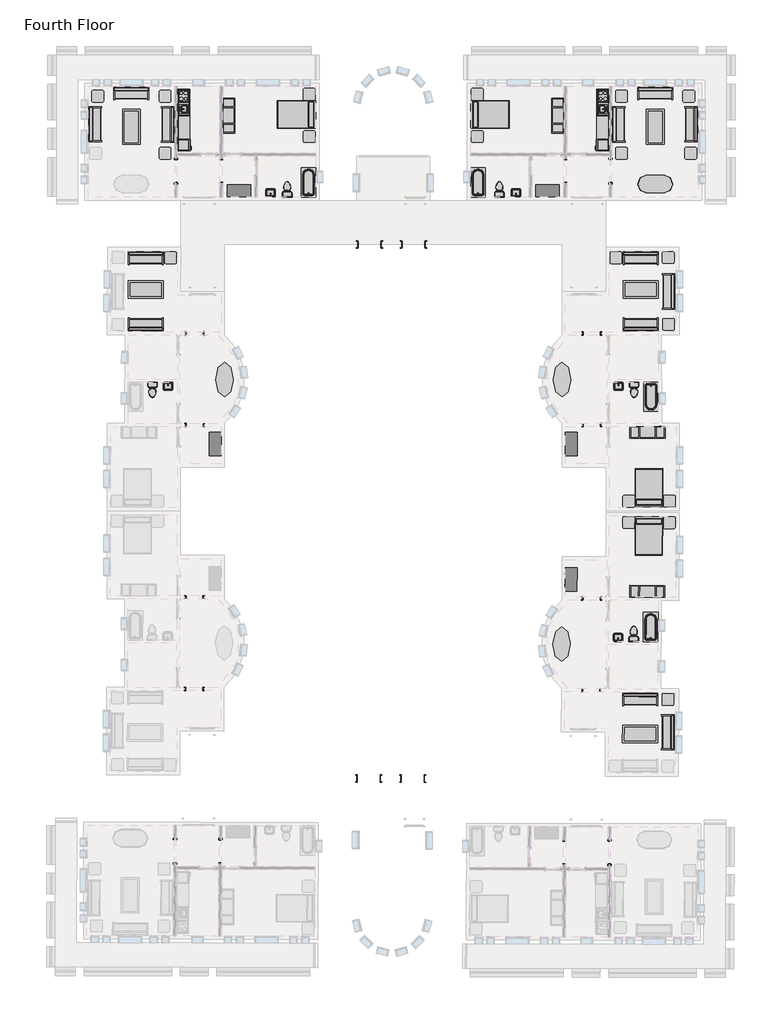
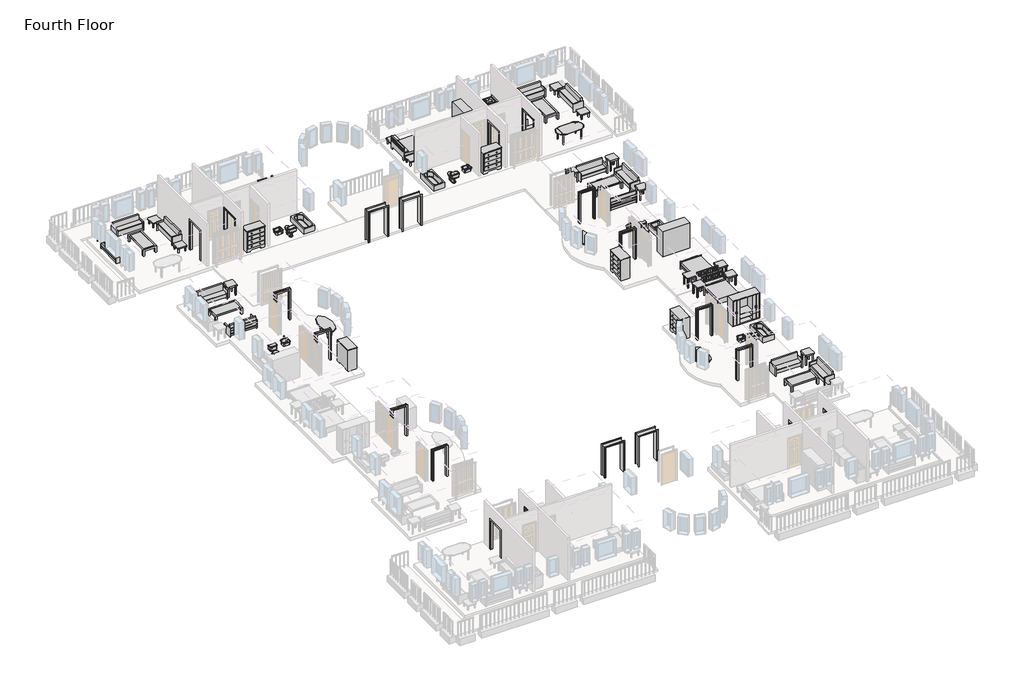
# One storey, part 8 of 8: 57 furniture elements, 28 proxies, 16 flow terminals.
"""IFC4 building model written with IfcOpenShell, lengths in millimetres."""

from ifc_helpers import new_model, si_unit, origin, place, context, project, spatial, transform, mapped, element, save
from components import m_cook_top_4_unit2_0615_x_500mm_249f3515, m_cook_top_4_unit2_0615_x_500mm_c91639ce, m_dishwasher_610_x_610_x_875mm_54ecfc4c, m_dishwasher_610_x_610_x_875mm_75336c20, m_kitchenette_medium_1372mm_e05c6bec, m_kitchenette_medium_1372mm_39f1532f, m_passage_opening_cased_0915_x_2134mm_b7ef4dee, m_passage_opening_cased_0915_x_2134mm_5e741ba8, m_passage_opening_cased_1220_x_2134mm_87a8d9c2, m_passage_opening_cased_1220_x_2134mm_f04423fa, m_passage_opening_cased_1220_x_2134mm_7296280d, m_passage_opening_cased_1220_x_2134mm_b92f2863, m_refrigerator_600_x_660mm_a466bf94, m_refrigerator_600_x_660mm_0a899b9c, m_sink_kitchen_island_450_x_450mm_f969cf2d, m_sink_kitchen_island_450_x_450mm_f6c2c534, m_sink_vanity_square_500_x_440mm_1e229b74, m_sink_vanity_square_500_x_440mm_f3cfe680, m_toilet_domestic_3d_m_toilet_domestic_3d_5cb52bd4, m_toilet_domestic_3d_m_toilet_domestic_3d_183bbd19, m_toilet_domestic_3d_m_toilet_domestic_3d_43425dfb, m_toilet_domestic_3d_m_toilet_domestic_3d_5530cc89, m_tub_rectangular_3d_m_tub_rectangular_3d_3a981ad5, m_tub_rectangular_3d_m_tub_rectangular_3d_c2020133, m_bed_shaker_1422_x_1981mm_double_096e7f55, m_bed_shaker_1422_x_1981mm_double_097b173b, m_counter_top_w_sink_hole_600mm_depth_1fb56bb9, m_counter_top_w_sink_hole_600mm_depth_7e9aa94d, m_dresser_1220_x_1525_x_0610mm_18e1f140, m_dresser_1220_x_1525_x_0610mm_4e5de046, m_entertainment_center_1830_x_1830_x_0610mm_f77a9b93, m_entertainment_center_1830_x_1830_x_0610mm_4f6058a0, m_sofa_1830mm_58d08fc1, m_sofa_1830mm_3da2e71b, m_sofa1_1830mm_f9e8a66b, m_sofa1_1830mm_493d6964, m_table_coffee_0915_x_1830_x_0457mm_134cd960, m_table_coffee_0915_x_1830_x_0457mm_595c1ebd, m_table_dining_oval_0915_x_1830mm_a7cfbe21, m_table_ellipse_1800_x_900mm_fd46d5a5, m_table_ellipse_1800_x_900mm_f7269293, m_table_end_cb6ea12e, m_table_end_aa2764bc, m_table_end_0610_x_0160mm_e0e5b28f, m_table_end_0610_x_0160mm_ccef8dc9

model = new_model("IFC4")

# Units and contexts
model_context = context("Model", 3, world=origin())
ifc_project = project(units=[si_unit("LENGTHUNIT", "METRE", prefix="MILLI")], contexts=[model_context])

# Site, building, storey
site = spatial("IfcSite", under=ifc_project)
building = spatial("IfcBuilding", under=site)
storey = spatial("IfcBuildingStorey", under=building, Name="Fourth Floor", Elevation=9144.0)

# Proxies
placement = place(None, origin())
m_cook_top_4_unit2_0615_x_500mm_shape = m_cook_top_4_unit2_0615_x_500mm_249f3515(model_context)
element("IfcBuildingElementProxy", 1, Name="M_Cook Top-4 Unit2 : 0615 x 500mm", ObjectType="M_Cook Top-4 Unit2 : 0615 x 500mm", at=placement, inside=storey, context=model_context, shape_type="MappedRepresentation", body=[
    mapped(m_cook_top_4_unit2_0615_x_500mm_shape, transform((-8054.9916203, 1914.054661, 9144.0), x_axis=(0.0, -1.0, 0.0), y_axis=(1.0, 0.0, 0.0), z_axis=(0.0, 0.0, 1.0))),
])
m_cook_top_4_unit2_0615_x_500mm_2_shape = m_cook_top_4_unit2_0615_x_500mm_c91639ce(model_context)
element("IfcBuildingElementProxy", 2, Name="M_Cook Top-4 Unit2 : 0615 x 500mm", ObjectType="M_Cook Top-4 Unit2 : 0615 x 500mm", at=placement, inside=storey, context=model_context, shape_type="MappedRepresentation", body=[
    mapped(m_cook_top_4_unit2_0615_x_500mm_2_shape, transform((-29859.1916203, 1914.054661, 9144.0), x_axis=(0.0, -1.0, 0.0), y_axis=(1.0, 0.0, 0.0), z_axis=(0.0, 0.0, 1.0))),
])
m_dishwasher_610_x_610_x_875mm_shape = m_dishwasher_610_x_610_x_875mm_54ecfc4c(model_context)
element("IfcBuildingElementProxy", 3, Name="M_Dishwasher : 610 x 610 x 875mm", ObjectType="M_Dishwasher : 610 x 610 x 875mm", at=placement, inside=storey, context=model_context, shape_type="MappedRepresentation", body=[
    mapped(m_dishwasher_610_x_610_x_875mm_shape, transform((-8321.6411851, 353.5721295, 9144.0), x_axis=(0.0, -1.0, 0.0), y_axis=(1.0, 0.0, 0.0), z_axis=(0.0, 0.0, 1.0))),
])
m_dishwasher_610_x_610_x_875mm_2_shape = m_dishwasher_610_x_610_x_875mm_75336c20(model_context)
element("IfcBuildingElementProxy", 4, Name="M_Dishwasher : 610 x 610 x 875mm", ObjectType="M_Dishwasher : 610 x 610 x 875mm", at=placement, inside=storey, context=model_context, shape_type="MappedRepresentation", body=[
    mapped(m_dishwasher_610_x_610_x_875mm_2_shape, transform((-29592.5420555, 353.5721295, 9144.0), x_axis=(0.0, -1.0, 0.0), y_axis=(1.0, 0.0, 0.0), z_axis=(0.0, 0.0, 1.0))),
])
m_kitchenette_medium_1372mm_shape = m_kitchenette_medium_1372mm_e05c6bec(model_context)
element("IfcBuildingElementProxy", 5, Name="M_Kitchenette - Medium : 1372mm", ObjectType="M_Kitchenette - Medium : 1372mm", at=placement, inside=storey, context=model_context, shape_type="MappedRepresentation", body=[
    mapped(m_kitchenette_medium_1372mm_shape, transform((-7749.9916203, 1589.7923659, 9144.0), x_axis=(0.0, -1.0, 0.0), y_axis=(1.0, 0.0, 0.0), z_axis=(0.0, 0.0, 1.0))),
])
m_kitchenette_medium_1372mm_2_shape = m_kitchenette_medium_1372mm_39f1532f(model_context)
element("IfcBuildingElementProxy", 6, Name="M_Kitchenette - Medium : 1372mm", ObjectType="M_Kitchenette - Medium : 1372mm", at=placement, inside=storey, context=model_context, shape_type="MappedRepresentation", body=[
    mapped(m_kitchenette_medium_1372mm_2_shape, transform((-30164.1916203, 1589.7923659, 9144.0), x_axis=(0.0, -1.0, 0.0), y_axis=(1.0, 0.0, 0.0), z_axis=(0.0, 0.0, 1.0))),
])
m_passage_opening_cased_0915_x_2134mm_shape = m_passage_opening_cased_0915_x_2134mm_b7ef4dee(model_context)
element("IfcBuildingElementProxy", 7, Name="M_Passage Opening-Cased : 0915 x 2134mm", ObjectType="M_Passage Opening-Cased : 0915 x 2134mm", at=placement, inside=storey, context=model_context, shape_type="MappedRepresentation", body=[
    mapped(m_passage_opening_cased_0915_x_2134mm_shape, transform((-29263.1209408, -10426.1057324, 9144.0), x_axis=(0.9999989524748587, -0.0014474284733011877, 0.0), y_axis=(0.0014474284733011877, 0.9999989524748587, 0.0), z_axis=(0.0, 0.0, 1.0))),
])
element("IfcBuildingElementProxy", 8, Name="M_Passage Opening-Cased : 0915 x 2134mm", ObjectType="M_Passage Opening-Cased : 0915 x 2134mm", at=placement, inside=storey, context=model_context, shape_type="MappedRepresentation", body=[
    mapped(m_passage_opening_cased_0915_x_2134mm_shape, transform((-29270.0280695, -15198.1007336, 9144.0), x_axis=(0.9999989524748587, -0.0014474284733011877, 0.0), y_axis=(0.0014474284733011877, 0.9999989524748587, 0.0), z_axis=(0.0, 0.0, 1.0))),
])
element("IfcBuildingElementProxy", 9, Name="M_Passage Opening-Cased : 0915 x 2134mm", ObjectType="M_Passage Opening-Cased : 0915 x 2134mm", at=placement, inside=storey, context=model_context, shape_type="MappedRepresentation", body=[
    mapped(m_passage_opening_cased_0915_x_2134mm_shape, transform((-8677.908724, -28973.7552644, 9144.0), x_axis=(-0.9999905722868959, 0.004342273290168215, 0.0), y_axis=(-0.004342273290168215, -0.9999905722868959, 0.0), z_axis=(0.0, 0.0, 1.0))),
])
element("IfcBuildingElementProxy", 10, Name="M_Passage Opening-Cased : 0915 x 2134mm", ObjectType="M_Passage Opening-Cased : 0915 x 2134mm", at=placement, inside=storey, context=model_context, shape_type="MappedRepresentation", body=[
    mapped(m_passage_opening_cased_0915_x_2134mm_shape, transform((-8657.1873959, -24201.8002534, 9144.0), x_axis=(-0.9999905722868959, 0.004342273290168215, 0.0), y_axis=(-0.004342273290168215, -0.9999905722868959, 0.0), z_axis=(0.0, 0.0, 1.0))),
])
m_passage_opening_cased_0915_x_2134mm_2_shape = m_passage_opening_cased_0915_x_2134mm_5e741ba8(model_context)
element("IfcBuildingElementProxy", 11, Name="M_Passage Opening-Cased : 0915 x 2134mm", ObjectType="M_Passage Opening-Cased : 0915 x 2134mm", at=placement, inside=storey, context=model_context, shape_type="MappedRepresentation", body=[
    mapped(m_passage_opening_cased_0915_x_2134mm_2_shape, transform((-8651.0622999, -10426.1057324, 9144.0), x_axis=(-0.9999989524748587, -0.0014474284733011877, 0.0), y_axis=(0.0014474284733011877, -0.9999989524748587, 0.0), z_axis=(0.0, 0.0, 1.0))),
])
element("IfcBuildingElementProxy", 12, Name="M_Passage Opening-Cased : 0915 x 2134mm", ObjectType="M_Passage Opening-Cased : 0915 x 2134mm", at=placement, inside=storey, context=model_context, shape_type="MappedRepresentation", body=[
    mapped(m_passage_opening_cased_0915_x_2134mm_2_shape, transform((-8644.1551712, -15198.1007336, 9144.0), x_axis=(-0.9999989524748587, -0.0014474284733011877, 0.0), y_axis=(0.0014474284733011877, -0.9999989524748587, 0.0), z_axis=(0.0, 0.0, 1.0))),
])
element("IfcBuildingElementProxy", 13, Name="M_Passage Opening-Cased : 0915 x 2134mm", ObjectType="M_Passage Opening-Cased : 0915 x 2134mm", at=placement, inside=storey, context=model_context, shape_type="MappedRepresentation", body=[
    mapped(m_passage_opening_cased_0915_x_2134mm_2_shape, transform((-29289.8809984, -28914.0863657, 9144.0), x_axis=(0.9999989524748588, -0.0014474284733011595, 0.0), y_axis=(0.0014474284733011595, 0.9999989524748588, 0.0), z_axis=(0.0, 0.0, 1.0))),
])
element("IfcBuildingElementProxy", 14, Name="M_Passage Opening-Cased : 0915 x 2134mm", ObjectType="M_Passage Opening-Cased : 0915 x 2134mm", at=placement, inside=storey, context=model_context, shape_type="MappedRepresentation", body=[
    mapped(m_passage_opening_cased_0915_x_2134mm_2_shape, transform((-29282.9738697, -24142.0913645, 9144.0), x_axis=(0.9999989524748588, -0.0014474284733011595, 0.0), y_axis=(0.0014474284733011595, 0.9999989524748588, 0.0), z_axis=(0.0, 0.0, 1.0))),
])
m_passage_opening_cased_1220_x_2134mm_shape = m_passage_opening_cased_1220_x_2134mm_87a8d9c2(model_context)
element("IfcBuildingElementProxy", 15, Name="M_Passage Opening-Cased : 1220 x 2134mm", ObjectType="M_Passage Opening-Cased : 1220 x 2134mm", at=placement, inside=storey, context=model_context, shape_type="MappedRepresentation", body=[
    mapped(m_passage_opening_cased_1220_x_2134mm_shape, transform((-7665.3416203, -1982.6925047, 9144.0), x_axis=(0.0, 1.0, 0.0), y_axis=(-1.0, 0.0, 0.0), z_axis=(0.0, 0.0, 1.0))),
])
element("IfcBuildingElementProxy", 16, Name="M_Passage Opening-Cased : 1220 x 2134mm", ObjectType="M_Passage Opening-Cased : 1220 x 2134mm", at=placement, inside=storey, context=model_context, shape_type="MappedRepresentation", body=[
    mapped(m_passage_opening_cased_1220_x_2134mm_shape, transform((-10019.0916203, -1999.0698181, 9144.0), x_axis=(0.0, -1.0, 0.0), y_axis=(1.0, 0.0, 0.0), z_axis=(0.0, 0.0, 1.0))),
])
element("IfcBuildingElementProxy", 17, Name="M_Passage Opening-Cased : 1220 x 2134mm", ObjectType="M_Passage Opening-Cased : 1220 x 2134mm", at=placement, inside=storey, context=model_context, shape_type="MappedRepresentation", body=[
    mapped(m_passage_opening_cased_1220_x_2134mm_shape, transform((-30300.0399955, -37354.6106974, 9144.0), x_axis=(-0.0028948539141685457, -0.9999958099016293, 0.0), y_axis=(0.9999958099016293, -0.0028948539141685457, 0.0), z_axis=(0.0, 0.0, 1.0))),
])
element("IfcBuildingElementProxy", 18, Name="M_Passage Opening-Cased : 1220 x 2134mm", ObjectType="M_Passage Opening-Cased : 1220 x 2134mm", at=placement, inside=storey, context=model_context, shape_type="MappedRepresentation", body=[
    mapped(m_passage_opening_cased_1220_x_2134mm_shape, transform((-27946.252448, -37345.047215, 9144.0), x_axis=(0.0028948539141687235, 0.9999958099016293, 0.0), y_axis=(-0.9999958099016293, 0.0028948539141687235, 0.0), z_axis=(0.0, 0.0, 1.0))),
])
m_passage_opening_cased_1220_x_2134mm_2_shape = m_passage_opening_cased_1220_x_2134mm_f04423fa(model_context)
element("IfcBuildingElementProxy", 19, Name="M_Passage Opening-Cased : 1220 x 2134mm", ObjectType="M_Passage Opening-Cased : 1220 x 2134mm", at=placement, inside=storey, context=model_context, shape_type="MappedRepresentation", body=[
    mapped(m_passage_opening_cased_1220_x_2134mm_2_shape, transform((-17916.280277, -5800.8811614, 9144.0), x_axis=(-1.0, 0.0, 0.0), y_axis=(0.0, -1.0, 0.0), z_axis=(0.0, 0.0, 1.0))),
])
element("IfcBuildingElementProxy", 20, Name="M_Passage Opening-Cased : 1220 x 2134mm", ObjectType="M_Passage Opening-Cased : 1220 x 2134mm", at=placement, inside=storey, context=model_context, shape_type="MappedRepresentation", body=[
    mapped(m_passage_opening_cased_1220_x_2134mm_2_shape, transform((-20185.9029636, -5800.8811614, 9144.0), x_axis=(1.0, 0.0, 0.0), y_axis=(0.0, 1.0, 0.0), z_axis=(0.0, 0.0, 1.0))),
])
m_passage_opening_cased_1220_x_2134mm_3_shape = m_passage_opening_cased_1220_x_2134mm_7296280d(model_context)
element("IfcBuildingElementProxy", 21, Name="M_Passage Opening-Cased : 1220 x 2134mm", ObjectType="M_Passage Opening-Cased : 1220 x 2134mm", at=placement, inside=storey, context=model_context, shape_type="MappedRepresentation", body=[
    mapped(m_passage_opening_cased_1220_x_2134mm_3_shape, transform((-30248.8416203, -1982.6925047, 9144.0), x_axis=(0.0, 1.0, 0.0), y_axis=(-1.0, 0.0, 0.0), z_axis=(0.0, 0.0, 1.0))),
])
element("IfcBuildingElementProxy", 22, Name="M_Passage Opening-Cased : 1220 x 2134mm", ObjectType="M_Passage Opening-Cased : 1220 x 2134mm", at=placement, inside=storey, context=model_context, shape_type="MappedRepresentation", body=[
    mapped(m_passage_opening_cased_1220_x_2134mm_3_shape, transform((-27895.0916203, -1999.0698181, 9144.0), x_axis=(0.0, -1.0, 0.0), y_axis=(1.0, 0.0, 0.0), z_axis=(0.0, 0.0, 1.0))),
])
element("IfcBuildingElementProxy", 23, Name="M_Passage Opening-Cased : 1220 x 2134mm", ObjectType="M_Passage Opening-Cased : 1220 x 2134mm", at=placement, inside=storey, context=model_context, shape_type="MappedRepresentation", body=[
    mapped(m_passage_opening_cased_1220_x_2134mm_3_shape, transform((-7716.6346226, -37419.9866307, 9144.0), x_axis=(-0.0028948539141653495, -0.9999958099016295, 0.0), y_axis=(0.9999958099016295, -0.0028948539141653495, 0.0), z_axis=(0.0, 0.0, 1.0))),
])
element("IfcBuildingElementProxy", 24, Name="M_Passage Opening-Cased : 1220 x 2134mm", ObjectType="M_Passage Opening-Cased : 1220 x 2134mm", at=placement, inside=storey, context=model_context, shape_type="MappedRepresentation", body=[
    mapped(m_passage_opening_cased_1220_x_2134mm_3_shape, transform((-10070.3273502, -37396.7956235, 9144.0), x_axis=(0.0028948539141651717, 0.9999958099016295, 0.0), y_axis=(-0.9999958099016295, 0.0028948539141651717, 0.0), z_axis=(0.0, 0.0, 1.0))),
])
m_passage_opening_cased_1220_x_2134mm_4_shape = m_passage_opening_cased_1220_x_2134mm_b92f2863(model_context)
element("IfcBuildingElementProxy", 25, Name="M_Passage Opening-Cased : 1220 x 2134mm", ObjectType="M_Passage Opening-Cased : 1220 x 2134mm", at=placement, inside=storey, context=model_context, shape_type="MappedRepresentation", body=[
    mapped(m_passage_opening_cased_1220_x_2134mm_4_shape, transform((-17956.4772285, -33572.1390027, 9144.0), x_axis=(-0.9999958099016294, 0.0028948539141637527, 0.0), y_axis=(-0.0028948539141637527, -0.9999958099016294, 0.0), z_axis=(0.0, 0.0, 1.0))),
])
element("IfcBuildingElementProxy", 26, Name="M_Passage Opening-Cased : 1220 x 2134mm", ObjectType="M_Passage Opening-Cased : 1220 x 2134mm", at=placement, inside=storey, context=model_context, shape_type="MappedRepresentation", body=[
    mapped(m_passage_opening_cased_1220_x_2134mm_4_shape, transform((-20226.0904051, -33565.5687766, 9144.0), x_axis=(0.9999958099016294, -0.0028948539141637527, 0.0), y_axis=(0.0028948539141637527, 0.9999958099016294, 0.0), z_axis=(0.0, 0.0, 1.0))),
])
m_refrigerator_600_x_660mm_shape = m_refrigerator_600_x_660mm_a466bf94(model_context)
element("IfcBuildingElementProxy", 27, Name="M_Refrigerator : 600 x 660mm", ObjectType="M_Refrigerator : 600 x 660mm", at=placement, inside=storey, context=model_context, shape_type="MappedRepresentation", body=[
    mapped(m_refrigerator_600_x_660mm_shape, transform((-8046.2067105, -687.7464817, 9144.0), x_axis=(0.0, -1.0, 0.0), y_axis=(1.0, 0.0, 0.0), z_axis=(0.0, 0.0, 1.0))),
])
m_refrigerator_600_x_660mm_2_shape = m_refrigerator_600_x_660mm_0a899b9c(model_context)
element("IfcBuildingElementProxy", 28, Name="M_Refrigerator : 600 x 660mm", ObjectType="M_Refrigerator : 600 x 660mm", at=placement, inside=storey, context=model_context, shape_type="MappedRepresentation", body=[
    mapped(m_refrigerator_600_x_660mm_2_shape, transform((-29867.9765301, -687.7464817, 9144.0), x_axis=(0.0, -1.0, 0.0), y_axis=(1.0, 0.0, 0.0), z_axis=(0.0, 0.0, 1.0))),
])

# Flow terminals
m_sink_kitchen_island_450_x_450mm_shape = m_sink_kitchen_island_450_x_450mm_f969cf2d(model_context)
element("IfcFlowTerminal", 29, ObjectType="M_Sink Kitchen-Island : 450 x 450mm", at=placement, inside=storey, context=model_context, shape_type="MappedRepresentation", body=[
    mapped(m_sink_kitchen_island_450_x_450mm_shape, transform((-8057.3370214, 1243.7439015, 9144.0), x_axis=(0.0, -1.0, 0.0), y_axis=(1.0, 0.0, 0.0), z_axis=(0.0, 0.0, 1.0))),
])
m_sink_kitchen_island_450_x_450mm_2_shape = m_sink_kitchen_island_450_x_450mm_f6c2c534(model_context)
element("IfcFlowTerminal", 30, ObjectType="M_Sink Kitchen-Island : 450 x 450mm", at=placement, inside=storey, context=model_context, shape_type="MappedRepresentation", body=[
    mapped(m_sink_kitchen_island_450_x_450mm_2_shape, transform((-29856.8462192, 1243.7439015, 9144.0), x_axis=(0.0, -1.0, 0.0), y_axis=(1.0, 0.0, 0.0), z_axis=(0.0, 0.0, 1.0))),
])
m_sink_vanity_square_500_x_440mm_shape = m_sink_vanity_square_500_x_440mm_1e229b74(model_context)
element("IfcFlowTerminal", 31, ObjectType="M_Sink Vanity-Square : 500 x 440mm", at=placement, inside=storey, context=model_context, shape_type="MappedRepresentation", body=[
    mapped(m_sink_vanity_square_500_x_440mm_shape, transform((-12563.5523798, -3158.1107603, 9144.0), x_axis=(-1.0, 0.0, 0.0), y_axis=(0.0, -1.0, 0.0), z_axis=(0.0, 0.0, 1.0))),
])
element("IfcFlowTerminal", 32, ObjectType="M_Sink Vanity-Square : 500 x 440mm", at=placement, inside=storey, context=model_context, shape_type="MappedRepresentation", body=[
    mapped(m_sink_vanity_square_500_x_440mm_shape, transform((-30677.3455366, -13134.5069817, 9144.0), x_axis=(0.9999989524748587, -0.001447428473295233, 0.0), y_axis=(0.0014474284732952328, 0.9999989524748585, 0.0), z_axis=(0.0, 0.0, 0.9999999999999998))),
])
element("IfcFlowTerminal", 33, ObjectType="M_Sink Vanity-Square : 500 x 440mm", at=placement, inside=storey, context=model_context, shape_type="MappedRepresentation", body=[
    mapped(m_sink_vanity_square_500_x_440mm_shape, transform((-7255.849628, -26269.4593372, 9144.0), x_axis=(-0.9999905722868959, 0.00434227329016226, 0.0), y_axis=(-0.0043422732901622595, -0.9999905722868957, 0.0), z_axis=(0.0, 0.0, 0.9999999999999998))),
])
m_sink_vanity_square_500_x_440mm_2_shape = m_sink_vanity_square_500_x_440mm_f3cfe680(model_context)
element("IfcFlowTerminal", 34, ObjectType="M_Sink Vanity-Square : 500 x 440mm", at=placement, inside=storey, context=model_context, shape_type="MappedRepresentation", body=[
    mapped(m_sink_vanity_square_500_x_440mm_2_shape, transform((-7236.8377041, -13134.5069817, 9144.0), x_axis=(-0.9999989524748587, -0.001447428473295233, 0.0), y_axis=(0.0014474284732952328, -0.9999989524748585, 0.0), z_axis=(0.0, 0.0, 0.9999999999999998))),
])
element("IfcFlowTerminal", 35, ObjectType="M_Sink Vanity-Square : 500 x 440mm", at=placement, inside=storey, context=model_context, shape_type="MappedRepresentation", body=[
    mapped(m_sink_vanity_square_500_x_440mm_2_shape, transform((-25350.6308609, -3158.1107603, 9144.0), x_axis=(1.0, 0.0, 0.0), y_axis=(0.0, 1.0, 0.0), z_axis=(0.0, 0.0, 1.0))),
])
m_toilet_domestic_3d_m_toilet_domestic_3d_shape = m_toilet_domestic_3d_m_toilet_domestic_3d_5cb52bd4(model_context)
m_toilet_domestic_3d_m_toilet_domestic_3d_2_shape = m_toilet_domestic_3d_m_toilet_domestic_3d_183bbd19(model_context)
element("IfcFlowTerminal", 36, ObjectType="M_Toilet-Domestic-3D : M_Toilet-Domestic-3D", at=placement, inside=storey, context=model_context, shape_type="MappedRepresentation", body=[
    mapped(m_toilet_domestic_3d_m_toilet_domestic_3d_shape, transform((-13440.7376477, -2845.185134, 9144.0), x_axis=(-1.0, 0.0, 0.0), y_axis=(0.0, -1.0, 0.0), z_axis=(0.0, 0.0, 1.0))),
    mapped(m_toilet_domestic_3d_m_toilet_domestic_3d_2_shape, transform((-13440.7376477, -2845.185134, 9144.0), x_axis=(-1.0, 0.0, 0.0), y_axis=(0.0, -1.0, 0.0), z_axis=(0.0, 0.0, 1.0))),
])
m_toilet_domestic_3d_m_toilet_domestic_3d_3_shape = m_toilet_domestic_3d_m_toilet_domestic_3d_43425dfb(model_context)
m_toilet_domestic_3d_m_toilet_domestic_3d_4_shape = m_toilet_domestic_3d_m_toilet_domestic_3d_5530cc89(model_context)
element("IfcFlowTerminal", 37, ObjectType="M_Toilet-Domestic-3D : M_Toilet-Domestic-3D", at=placement, inside=storey, context=model_context, shape_type="MappedRepresentation", body=[
    mapped(m_toilet_domestic_3d_m_toilet_domestic_3d_3_shape, transform((-24473.445593, -2845.185134, 9144.0), x_axis=(1.0, 0.0, 0.0), y_axis=(0.0, 1.0, 0.0), z_axis=(0.0, 0.0, 1.0))),
    mapped(m_toilet_domestic_3d_m_toilet_domestic_3d_4_shape, transform((-24473.445593, -2845.185134, 9144.0), x_axis=(1.0, 0.0, 0.0), y_axis=(0.0, 1.0, 0.0), z_axis=(0.0, 0.0, 1.0))),
])
element("IfcFlowTerminal", 38, ObjectType="M_Toilet-Domestic-3D1 : M_Toilet-Domestic-3D", at=placement, inside=storey, context=model_context, shape_type="MappedRepresentation", body=[
    mapped(m_toilet_domestic_3d_m_toilet_domestic_3d_shape, transform((-31475.0435019, -13456.0033339, 9144.0), x_axis=(0.9999989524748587, -0.001447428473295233, 0.0), y_axis=(0.0014474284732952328, 0.9999989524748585, 0.0), z_axis=(0.0, 0.0, 0.9999999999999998))),
    mapped(m_toilet_domestic_3d_m_toilet_domestic_3d_2_shape, transform((-31475.0435019, -13456.0033339, 9144.0), x_axis=(0.9999989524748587, -0.001447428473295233, 0.0), y_axis=(0.0014474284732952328, 0.9999989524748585, 0.0), z_axis=(0.0, 0.0, 0.9999999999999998))),
])
element("IfcFlowTerminal", 39, ObjectType="M_Toilet-Domestic-3D1 : M_Toilet-Domestic-3D", at=placement, inside=storey, context=model_context, shape_type="MappedRepresentation", body=[
    mapped(m_toilet_domestic_3d_m_toilet_domestic_3d_shape, transform((-6457.2243201, -25950.2735511, 9144.0), x_axis=(-0.9999905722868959, 0.00434227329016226, 0.0), y_axis=(-0.0043422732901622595, -0.9999905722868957, 0.0), z_axis=(0.0, 0.0, 0.9999999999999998))),
    mapped(m_toilet_domestic_3d_m_toilet_domestic_3d_2_shape, transform((-6457.2243201, -25950.2735511, 9144.0), x_axis=(-0.9999905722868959, 0.00434227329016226, 0.0), y_axis=(-0.0043422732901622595, -0.9999905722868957, 0.0), z_axis=(0.0, 0.0, 0.9999999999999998))),
])
element("IfcFlowTerminal", 40, ObjectType="M_Toilet-Domestic-3D1 : M_Toilet-Domestic-3D", at=placement, inside=storey, context=model_context, shape_type="MappedRepresentation", body=[
    mapped(m_toilet_domestic_3d_m_toilet_domestic_3d_3_shape, transform((-6439.1397387, -13456.0033339, 9144.0), x_axis=(-0.9999989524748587, -0.001447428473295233, 0.0), y_axis=(0.0014474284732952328, -0.9999989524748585, 0.0), z_axis=(0.0, 0.0, 0.9999999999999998))),
    mapped(m_toilet_domestic_3d_m_toilet_domestic_3d_4_shape, transform((-6439.1397387, -13456.0033339, 9144.0), x_axis=(-0.9999989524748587, -0.001447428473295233, 0.0), y_axis=(0.0014474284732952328, -0.9999989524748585, 0.0), z_axis=(0.0, 0.0, 0.9999999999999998))),
])
m_tub_rectangular_3d_m_tub_rectangular_3d_shape = m_tub_rectangular_3d_m_tub_rectangular_3d_3a981ad5(model_context)
element("IfcFlowTerminal", 41, ObjectType="M_Tub-Rectangular-3D : M_Tub-Rectangular-3D", at=placement, inside=storey, context=model_context, shape_type="MappedRepresentation", body=[
    mapped(m_tub_rectangular_3d_m_tub_rectangular_3d_shape, transform((-15110.3416203, -2229.2781927, 9144.0), x_axis=(0.0, 1.0, 0.0), y_axis=(-1.0, 0.0, 0.0), z_axis=(0.0, 0.0, 1.0))),
])
element("IfcFlowTerminal", 42, ObjectType="M_Tub-Rectangular-3D : M_Tub-Rectangular-3D", at=placement, inside=storey, context=model_context, shape_type="MappedRepresentation", body=[
    mapped(m_tub_rectangular_3d_m_tub_rectangular_3d_shape, transform((-5003.7957874, -14069.8333606, 9144.0), x_axis=(0.0014474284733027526, -0.9999989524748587, 0.0), y_axis=(0.9999989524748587, 0.0014474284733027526, 0.0), z_axis=(0.0, 0.0, 1.0))),
])
m_tub_rectangular_3d_m_tub_rectangular_3d_2_shape = m_tub_rectangular_3d_m_tub_rectangular_3d_c2020133(model_context)
element("IfcFlowTerminal", 43, ObjectType="M_Tub-Rectangular-3D : M_Tub-Rectangular-3D", at=placement, inside=storey, context=model_context, shape_type="MappedRepresentation", body=[
    mapped(m_tub_rectangular_3d_m_tub_rectangular_3d_2_shape, transform((-22803.8416203, -2229.2781927, 9144.0), x_axis=(0.0, 1.0, 0.0), y_axis=(-1.0, 0.0, 0.0), z_axis=(0.0, 0.0, 1.0))),
])
element("IfcFlowTerminal", 44, ObjectType="M_Tub-Rectangular-3D : M_Tub-Rectangular-3D", at=placement, inside=storey, context=model_context, shape_type="MappedRepresentation", body=[
    mapped(m_tub_rectangular_3d_m_tub_rectangular_3d_2_shape, transform((-5020.1094348, -25340.6012075, 9144.0), x_axis=(0.004342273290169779, 0.9999905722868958, 0.0), y_axis=(-0.9999905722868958, 0.004342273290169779, 0.0), z_axis=(0.0, 0.0, 1.0))),
])

# Furniture
m_bed_shaker_1422_x_1981mm_double_shape = m_bed_shaker_1422_x_1981mm_double_096e7f55(model_context)
element("IfcFurniture", 45, ObjectType="M_Bed-Shaker : 1422 x 1981mm - Double", at=placement, inside=storey, context=model_context, shape_type="MappedRepresentation", body=[
    mapped(m_bed_shaker_1422_x_1981mm_double_shape, transform((-14905.3416203, 963.9688386, 9144.0), x_axis=(0.0, 1.0, 0.0), y_axis=(-1.0, 0.0, 0.0), z_axis=(0.0, 0.0, 1.0))),
])
element("IfcFurniture", 46, ObjectType="M_Bed-Shaker : 1422 x 1981mm - Double", at=placement, inside=storey, context=model_context, shape_type="MappedRepresentation", body=[
    mapped(m_bed_shaker_1422_x_1981mm_double_shape, transform((-5649.5787089, -19977.8202898, 9144.0), x_axis=(0.9999905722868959, -0.004342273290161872, 0.0), y_axis=(0.004342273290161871, 0.9999905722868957, 0.0), z_axis=(0.0, 0.0, 0.9999999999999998))),
])
m_bed_shaker_1422_x_1981mm_double_2_shape = m_bed_shaker_1422_x_1981mm_double_097b173b(model_context)
element("IfcFurniture", 47, ObjectType="M_Bed-Shaker : 1422 x 1981mm - Double", at=placement, inside=storey, context=model_context, shape_type="MappedRepresentation", body=[
    mapped(m_bed_shaker_1422_x_1981mm_double_2_shape, transform((-5648.7868913, -19430.7695861, 9144.0), x_axis=(0.9999989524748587, 0.0014474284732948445, 0.0), y_axis=(-0.0014474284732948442, 0.9999989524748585, 0.0), z_axis=(0.0, 0.0, 0.9999999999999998))),
])
element("IfcFurniture", 48, ObjectType="M_Bed-Shaker : 1422 x 1981mm - Double", at=placement, inside=storey, context=model_context, shape_type="MappedRepresentation", body=[
    mapped(m_bed_shaker_1422_x_1981mm_double_2_shape, transform((-23008.8416203, 963.9688386, 9144.0), x_axis=(0.0, 1.0, 0.0), y_axis=(-1.0, 0.0, 0.0), z_axis=(0.0, 0.0, 1.0))),
])
m_counter_top_w_sink_hole_600mm_depth_shape = m_counter_top_w_sink_hole_600mm_depth_1fb56bb9(model_context)
element("IfcFurniture", 49, ObjectType="M_Counter Top w Sink Hole : 600mm Depth", at=placement, inside=storey, context=model_context, shape_type="MappedRepresentation", body=[
    mapped(m_counter_top_w_sink_hole_600mm_depth_shape, transform((-7749.9916203, 1056.5923659, 9144.0), x_axis=(0.0, -1.0, 0.0), y_axis=(1.0, 0.0, 0.0), z_axis=(0.0, 0.0, 1.0))),
])
m_counter_top_w_sink_hole_600mm_depth_2_shape = m_counter_top_w_sink_hole_600mm_depth_7e9aa94d(model_context)
element("IfcFurniture", 50, ObjectType="M_Counter Top w Sink Hole : 600mm Depth", at=placement, inside=storey, context=model_context, shape_type="MappedRepresentation", body=[
    mapped(m_counter_top_w_sink_hole_600mm_depth_2_shape, transform((-30164.1916203, 1056.5923659, 9144.0), x_axis=(0.0, -1.0, 0.0), y_axis=(1.0, 0.0, 0.0), z_axis=(0.0, 0.0, 1.0))),
])
m_dresser_1220_x_1525_x_0610mm_shape = m_dresser_1220_x_1525_x_0610mm_18e1f140(model_context)
element("IfcFurniture", 51, ObjectType="M_Dresser : 1220 x 1525 x 0610mm", at=placement, inside=storey, context=model_context, shape_type="MappedRepresentation", body=[
    mapped(m_dresser_1220_x_1525_x_0610mm_shape, transform((-10667.6483605, -2647.7182073, 9144.0), x_axis=(1.0, 0.0, 0.0), y_axis=(0.0, 1.0, 0.0), z_axis=(0.0, 0.0, 1.0))),
])
element("IfcFurniture", 52, ObjectType="M_Dresser : 1220 x 1525 x 0610mm", at=placement, inside=storey, context=model_context, shape_type="MappedRepresentation", body=[
    mapped(m_dresser_1220_x_1525_x_0610mm_shape, transform((-28574.6164889, -15914.9147832, 9144.0), x_axis=(0.0014474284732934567, 0.9999989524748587, 0.0), y_axis=(-0.9999989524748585, 0.0014474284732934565, 0.0), z_axis=(0.0, 0.0, 0.9999999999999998))),
])
element("IfcFurniture", 53, ObjectType="M_Dresser : 1220 x 1525 x 0610mm", at=placement, inside=storey, context=model_context, shape_type="MappedRepresentation", body=[
    mapped(m_dresser_1220_x_1525_x_0610mm_shape, transform((-9350.5209907, -23482.9760924, 9144.0), x_axis=(-0.004342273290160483, -0.9999905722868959, 0.0), y_axis=(0.9999905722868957, -0.004342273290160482, 0.0), z_axis=(0.0, 0.0, 0.9999999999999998))),
])
m_dresser_1220_x_1525_x_0610mm_2_shape = m_dresser_1220_x_1525_x_0610mm_4e5de046(model_context)
element("IfcFurniture", 54, ObjectType="M_Dresser : 1220 x 1525 x 0610mm", at=placement, inside=storey, context=model_context, shape_type="MappedRepresentation", body=[
    mapped(m_dresser_1220_x_1525_x_0610mm_2_shape, transform((-9339.5667518, -15914.9147832, 9144.0), x_axis=(-0.0014474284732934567, 0.9999989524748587, 0.0), y_axis=(-0.9999989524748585, -0.0014474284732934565, 0.0), z_axis=(0.0, 0.0, 0.9999999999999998))),
])
element("IfcFurniture", 55, ObjectType="M_Dresser : 1220 x 1525 x 0610mm", at=placement, inside=storey, context=model_context, shape_type="MappedRepresentation", body=[
    mapped(m_dresser_1220_x_1525_x_0610mm_2_shape, transform((-27246.5348802, -2647.7182073, 9144.0), x_axis=(-1.0, 0.0, 0.0), y_axis=(0.0, -1.0, 0.0), z_axis=(0.0, 0.0, 1.0))),
])
m_entertainment_center_1830_x_1830_x_0610mm_shape = m_entertainment_center_1830_x_1830_x_0610mm_f77a9b93(model_context)
element("IfcFurniture", 56, ObjectType="M_Entertainment center : 1830 x 1830 x 0610mm", at=placement, inside=storey, context=model_context, shape_type="MappedRepresentation", body=[
    mapped(m_entertainment_center_1830_x_1830_x_0610mm_shape, transform((-10818.2416203, 891.1188386, 9144.0), x_axis=(0.0, 1.0, 0.0), y_axis=(-1.0, 0.0, 0.0), z_axis=(0.0, 0.0, 1.0))),
])
element("IfcFurniture", 57, ObjectType="M_Entertainment center : 1830 x 1830 x 0610mm", at=placement, inside=storey, context=model_context, shape_type="MappedRepresentation", body=[
    mapped(m_entertainment_center_1830_x_1830_x_0610mm_shape, transform((-5751.8113346, -23428.0088952, 9144.0), x_axis=(0.9999905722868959, -0.004342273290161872, 0.0), y_axis=(0.004342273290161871, 0.9999905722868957, 0.0), z_axis=(0.0, 0.0, 0.9999999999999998))),
])
m_entertainment_center_1830_x_1830_x_0610mm_2_shape = m_entertainment_center_1830_x_1830_x_0610mm_4f6058a0(model_context)
element("IfcFurniture", 58, ObjectType="M_Entertainment center : 1830 x 1830 x 0610mm", at=placement, inside=storey, context=model_context, shape_type="MappedRepresentation", body=[
    mapped(m_entertainment_center_1830_x_1830_x_0610mm_2_shape, transform((-5741.0312966, -15980.2994888, 9144.0), x_axis=(0.9999989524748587, 0.0014474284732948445, 0.0), y_axis=(-0.0014474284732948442, 0.9999989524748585, 0.0), z_axis=(0.0, 0.0, 0.9999999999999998))),
])
element("IfcFurniture", 59, ObjectType="M_Entertainment center : 1830 x 1830 x 0610mm", at=placement, inside=storey, context=model_context, shape_type="MappedRepresentation", body=[
    mapped(m_entertainment_center_1830_x_1830_x_0610mm_2_shape, transform((-27095.9416203, 891.1188386, 9144.0), x_axis=(0.0, 1.0, 0.0), y_axis=(-1.0, 0.0, 0.0), z_axis=(0.0, 0.0, 1.0))),
])
m_sofa_1830mm_shape = m_sofa_1830mm_58d08fc1(model_context)
element("IfcFurniture", 60, ObjectType="M_Sofa : 1830mm", at=placement, inside=storey, context=model_context, shape_type="MappedRepresentation", body=[
    mapped(m_sofa_1830mm_shape, transform((-5413.7121121, 1899.9647403, 9144.0), x_axis=(1.0, 0.0, 0.0), y_axis=(0.0, 1.0, 0.0), z_axis=(0.0, 0.0, 1.0))),
])
element("IfcFurniture", 61, ObjectType="M_Sofa : 1830mm", at=placement, inside=storey, context=model_context, shape_type="MappedRepresentation", body=[
    mapped(m_sofa_1830mm_shape, transform((-3617.1736471, 517.2688343, 9144.0), x_axis=(0.0, -1.0, 0.0), y_axis=(1.0, 0.0, 0.0), z_axis=(0.0, 0.0, 1.0))),
])
element("IfcFurniture", 62, ObjectType="M_Sofa : 1830mm", at=placement, inside=storey, context=model_context, shape_type="MappedRepresentation", body=[
    mapped(m_sofa_1830mm_shape, transform((-7088.437522, 355.7483468, 9144.0), x_axis=(0.0, 1.0, 0.0), y_axis=(-1.0, 0.0, 0.0), z_axis=(0.0, 0.0, 1.0))),
])
m_sofa_1830mm_2_shape = m_sofa_1830mm_3da2e71b(model_context)
element("IfcFurniture", 63, ObjectType="M_Sofa : 1830mm", at=placement, inside=storey, context=model_context, shape_type="MappedRepresentation", body=[
    mapped(m_sofa_1830mm_2_shape, transform((-32500.4711285, 1899.9647403, 9144.0), x_axis=(-1.0, 0.0, 0.0), y_axis=(0.0, -1.0, 0.0), z_axis=(0.0, 0.0, 1.0))),
])
element("IfcFurniture", 64, ObjectType="M_Sofa : 1830mm", at=placement, inside=storey, context=model_context, shape_type="MappedRepresentation", body=[
    mapped(m_sofa_1830mm_2_shape, transform((-34297.0095936, 517.2688343, 9144.0), x_axis=(0.0, -1.0, 0.0), y_axis=(1.0, 0.0, 0.0), z_axis=(0.0, 0.0, 1.0))),
])
element("IfcFurniture", 65, ObjectType="M_Sofa : 1830mm", at=placement, inside=storey, context=model_context, shape_type="MappedRepresentation", body=[
    mapped(m_sofa_1830mm_2_shape, transform((-30825.7457187, 355.7483468, 9144.0), x_axis=(0.0, 1.0, 0.0), y_axis=(-1.0, 0.0, 0.0), z_axis=(0.0, 0.0, 1.0))),
])
m_sofa1_1830mm_shape = m_sofa1_1830mm_f9e8a66b(model_context)
element("IfcFurniture", 66, ObjectType="M_Sofa1 : 1830mm", at=placement, inside=storey, context=model_context, shape_type="MappedRepresentation", body=[
    mapped(m_sofa1_1830mm_shape, transform((-31753.247914, -9808.5967065, 9144.0), x_axis=(-0.9999989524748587, 0.0014474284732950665, 0.0), y_axis=(-0.0014474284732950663, -0.9999989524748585, 0.0), z_axis=(0.0, 0.0, 0.9999999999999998))),
])
element("IfcFurniture", 67, ObjectType="M_Sofa1 : 1830mm", at=placement, inside=storey, context=model_context, shape_type="MappedRepresentation", body=[
    mapped(m_sofa1_1830mm_shape, transform((-31889.4482513, -6671.4544767, 9144.0), x_axis=(0.9999989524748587, -0.001447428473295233, 0.0), y_axis=(0.0014474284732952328, 0.9999989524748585, 0.0), z_axis=(0.0, 0.0, 0.9999999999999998))),
])
element("IfcFurniture", 68, ObjectType="M_Sofa1 : 1830mm", at=placement, inside=storey, context=model_context, shape_type="MappedRepresentation", body=[
    mapped(m_sofa1_1830mm_shape, transform((-4836.8146029, -31087.0837768, 9144.0), x_axis=(-0.004342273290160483, -0.9999905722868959, 0.0), y_axis=(0.9999905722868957, -0.004342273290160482, 0.0), z_axis=(0.0, 0.0, 0.9999999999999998))),
])
element("IfcFurniture", 69, ObjectType="M_Sofa1 : 1830mm", at=placement, inside=storey, context=model_context, shape_type="MappedRepresentation", body=[
    mapped(m_sofa1_1830mm_shape, transform((-6189.5797831, -29598.4702567, 9144.0), x_axis=(0.9999905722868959, -0.004342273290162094, 0.0), y_axis=(0.004342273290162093, 0.9999905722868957, 0.0), z_axis=(0.0, 0.0, 0.9999999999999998))),
])
m_sofa1_1830mm_2_shape = m_sofa1_1830mm_493d6964(model_context)
element("IfcFurniture", 70, ObjectType="M_Sofa1 : 1830mm", at=placement, inside=storey, context=model_context, shape_type="MappedRepresentation", body=[
    mapped(m_sofa1_1830mm_2_shape, transform((-4803.866496, -8323.9054813, 9144.0), x_axis=(-0.0014474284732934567, 0.9999989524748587, 0.0), y_axis=(-0.9999989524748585, -0.0014474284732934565, 0.0), z_axis=(0.0, 0.0, 0.9999999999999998))),
])
element("IfcFurniture", 71, ObjectType="M_Sofa1 : 1830mm", at=placement, inside=storey, context=model_context, shape_type="MappedRepresentation", body=[
    mapped(m_sofa1_1830mm_2_shape, transform((-6160.9353266, -9808.5967065, 9144.0), x_axis=(0.9999989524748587, 0.0014474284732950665, 0.0), y_axis=(-0.0014474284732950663, 0.9999989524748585, 0.0), z_axis=(0.0, 0.0, 0.9999999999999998))),
])
element("IfcFurniture", 72, ObjectType="M_Sofa1 : 1830mm", at=placement, inside=storey, context=model_context, shape_type="MappedRepresentation", body=[
    mapped(m_sofa1_1830mm_2_shape, transform((-6024.7349893, -6671.4544767, 9144.0), x_axis=(-0.9999989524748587, -0.001447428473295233, 0.0), y_axis=(0.0014474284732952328, -0.9999989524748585, 0.0), z_axis=(0.0, 0.0, 0.9999999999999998))),
])
m_table_coffee_0915_x_1830_x_0457mm_shape = m_table_coffee_0915_x_1830_x_0457mm_134cd960(model_context)
element("IfcFurniture", 73, ObjectType="M_Table-Coffee : 0915 x 1830 x 0457mm", at=placement, inside=storey, context=model_context, shape_type="MappedRepresentation", body=[
    mapped(m_table_coffee_0915_x_1830_x_0457mm_shape, transform((-5248.1305425, 287.8530719, 9144.0), x_axis=(0.0, 1.0, 0.0), y_axis=(-1.0, 0.0, 0.0), z_axis=(0.0, 0.0, 1.0))),
])
element("IfcFurniture", 74, ObjectType="M_Table-Coffee : 0915 x 1830 x 0457mm", at=placement, inside=storey, context=model_context, shape_type="MappedRepresentation", body=[
    mapped(m_table_coffee_0915_x_1830_x_0457mm_shape, transform((-31802.8209497, -8059.4661414, 9144.0), x_axis=(-0.9999989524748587, 0.0014474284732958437, 0.0), y_axis=(-0.0014474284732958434, -0.9999989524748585, 0.0), z_axis=(0.0, 0.0, 0.9999999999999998))),
])
element("IfcFurniture", 75, ObjectType="M_Table-Coffee : 0915 x 1830 x 0457mm", at=placement, inside=storey, context=model_context, shape_type="MappedRepresentation", body=[
    mapped(m_table_coffee_0915_x_1830_x_0457mm_shape, transform((-6145.0704326, -31347.7369995, 9144.0), x_axis=(0.9999905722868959, -0.004342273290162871, 0.0), y_axis=(0.00434227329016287, 0.9999905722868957, 0.0), z_axis=(0.0, 0.0, 0.9999999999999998))),
])
m_table_coffee_0915_x_1830_x_0457mm_2_shape = m_table_coffee_0915_x_1830_x_0457mm_595c1ebd(model_context)
element("IfcFurniture", 76, ObjectType="M_Table-Coffee : 0915 x 1830 x 0457mm", at=placement, inside=storey, context=model_context, shape_type="MappedRepresentation", body=[
    mapped(m_table_coffee_0915_x_1830_x_0457mm_2_shape, transform((-6111.362291, -8059.4661414, 9144.0), x_axis=(0.9999989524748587, 0.0014474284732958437, 0.0), y_axis=(-0.0014474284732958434, 0.9999989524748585, 0.0), z_axis=(0.0, 0.0, 0.9999999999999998))),
])
element("IfcFurniture", 77, ObjectType="M_Table-Coffee : 0915 x 1830 x 0457mm", at=placement, inside=storey, context=model_context, shape_type="MappedRepresentation", body=[
    mapped(m_table_coffee_0915_x_1830_x_0457mm_2_shape, transform((-32666.0526981, 287.8530719, 9144.0), x_axis=(0.0, 1.0, 0.0), y_axis=(-1.0, 0.0, 0.0), z_axis=(0.0, 0.0, 1.0))),
])
m_table_dining_oval_0915_x_1830mm_shape = m_table_dining_oval_0915_x_1830mm_a7cfbe21(model_context)
element("IfcFurniture", 78, ObjectType="M_Table-Dining Oval : 0915 x 1830mm", at=placement, inside=storey, context=model_context, shape_type="MappedRepresentation", body=[
    mapped(m_table_dining_oval_0915_x_1830mm_shape, transform((-4941.5219482, -2305.2828007, 9144.0), x_axis=(1.0, 0.0, 0.0), y_axis=(0.0, 1.0, 0.0), z_axis=(0.0, 0.0, 1.0))),
])
m_table_ellipse_1800_x_900mm_shape = m_table_ellipse_1800_x_900mm_fd46d5a5(model_context)
element("IfcFurniture", 79, ObjectType="M_Table-Ellipse : 1800 x 900mm", at=placement, inside=storey, context=model_context, shape_type="MappedRepresentation", body=[
    mapped(m_table_ellipse_1800_x_900mm_shape, transform((-27726.9892362, -12831.2316926, 9144.0), x_axis=(0.0014474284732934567, 0.9999989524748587, 0.0), y_axis=(-0.9999989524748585, 0.0014474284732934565, 0.0), z_axis=(0.0, 0.0, 0.9999999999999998))),
])
element("IfcFurniture", 80, ObjectType="M_Table-Ellipse : 1800 x 900mm", at=placement, inside=storey, context=model_context, shape_type="MappedRepresentation", body=[
    mapped(m_table_ellipse_1800_x_900mm_shape, transform((-10207.0715038, -26564.192505, 9144.0), x_axis=(-0.004342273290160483, -0.9999905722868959, 0.0), y_axis=(0.9999905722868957, -0.004342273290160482, 0.0), z_axis=(0.0, 0.0, 0.9999999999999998))),
])
m_table_ellipse_1800_x_900mm_2_shape = m_table_ellipse_1800_x_900mm_f7269293(model_context)
element("IfcFurniture", 81, ObjectType="M_Table-Ellipse : 1800 x 900mm", at=placement, inside=storey, context=model_context, shape_type="MappedRepresentation", body=[
    mapped(m_table_ellipse_1800_x_900mm_2_shape, transform((-10187.1940045, -12831.2316926, 9144.0), x_axis=(-0.0014474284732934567, 0.9999989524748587, 0.0), y_axis=(-0.9999989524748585, -0.0014474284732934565, 0.0), z_axis=(0.0, 0.0, 0.9999999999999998))),
])
m_table_end_shape = m_table_end_cb6ea12e(model_context)
element("IfcFurniture", 82, ObjectType="M_Table-End : 0610 x 0160mm altered height", at=placement, inside=storey, context=model_context, shape_type="MappedRepresentation", body=[
    mapped(m_table_end_shape, transform((-7407.0752506, 1748.7188386, 9144.0), x_axis=(1.0, 0.0, 0.0), y_axis=(0.0, 1.0, 0.0), z_axis=(0.0, 0.0, 1.0))),
])
element("IfcFurniture", 83, ObjectType="M_Table-End : 0610 x 0160mm altered height", at=placement, inside=storey, context=model_context, shape_type="MappedRepresentation", body=[
    mapped(m_table_end_shape, transform((-3907.0752506, 1748.7188386, 9144.0), x_axis=(1.0, 0.0, 0.0), y_axis=(0.0, 1.0, 0.0), z_axis=(0.0, 0.0, 1.0))),
])
element("IfcFurniture", 84, ObjectType="M_Table-End : 0610 x 0160mm altered height", at=placement, inside=storey, context=model_context, shape_type="MappedRepresentation", body=[
    mapped(m_table_end_shape, transform((-3807.0752506, -1222.7811614, 9144.0), x_axis=(1.0, 0.0, 0.0), y_axis=(0.0, 1.0, 0.0), z_axis=(0.0, 0.0, 1.0))),
])
element("IfcFurniture", 85, ObjectType="M_Table-End : 0610 x 0160mm altered height", at=placement, inside=storey, context=model_context, shape_type="MappedRepresentation", body=[
    mapped(m_table_end_shape, transform((-7407.0752506, -1222.7811614, 9144.0), x_axis=(1.0, 0.0, 0.0), y_axis=(0.0, 1.0, 0.0), z_axis=(0.0, 0.0, 1.0))),
])
element("IfcFurniture", 86, ObjectType="M_Table-End : 0610 x 0160mm altered height", at=placement, inside=storey, context=model_context, shape_type="MappedRepresentation", body=[
    mapped(m_table_end_shape, transform((-14899.0752506, -351.2811614, 9144.0), x_axis=(1.0, 0.0, 0.0), y_axis=(0.0, 1.0, 0.0), z_axis=(0.0, 0.0, 1.0))),
])
element("IfcFurniture", 87, ObjectType="M_Table-End : 0610 x 0160mm altered height", at=placement, inside=storey, context=model_context, shape_type="MappedRepresentation", body=[
    mapped(m_table_end_shape, transform((-14899.0752506, 1848.7188386, 9144.0), x_axis=(1.0, 0.0, 0.0), y_axis=(0.0, 1.0, 0.0), z_axis=(0.0, 0.0, 1.0))),
])
m_table_end_2_shape = m_table_end_aa2764bc(model_context)
element("IfcFurniture", 88, ObjectType="M_Table-End : 0610 x 0160mm altered height", at=placement, inside=storey, context=model_context, shape_type="MappedRepresentation", body=[
    mapped(m_table_end_2_shape, transform((-30507.10799, 1748.7188386, 9144.0), x_axis=(-1.0, 0.0, 0.0), y_axis=(0.0, -1.0, 0.0), z_axis=(0.0, 0.0, 1.0))),
])
element("IfcFurniture", 89, ObjectType="M_Table-End : 0610 x 0160mm altered height", at=placement, inside=storey, context=model_context, shape_type="MappedRepresentation", body=[
    mapped(m_table_end_2_shape, transform((-34007.10799, 1748.7188386, 9144.0), x_axis=(-1.0, 0.0, 0.0), y_axis=(0.0, -1.0, 0.0), z_axis=(0.0, 0.0, 1.0))),
])
element("IfcFurniture", 90, ObjectType="M_Table-End : 0610 x 0160mm altered height", at=placement, inside=storey, context=model_context, shape_type="MappedRepresentation", body=[
    mapped(m_table_end_2_shape, transform((-30507.10799, -1222.7811614, 9144.0), x_axis=(-1.0, 0.0, 0.0), y_axis=(0.0, -1.0, 0.0), z_axis=(0.0, 0.0, 1.0))),
])
element("IfcFurniture", 91, ObjectType="M_Table-End : 0610 x 0160mm altered height", at=placement, inside=storey, context=model_context, shape_type="MappedRepresentation", body=[
    mapped(m_table_end_2_shape, transform((-23015.10799, -351.2811614, 9144.0), x_axis=(-1.0, 0.0, 0.0), y_axis=(0.0, -1.0, 0.0), z_axis=(0.0, 0.0, 1.0))),
])
element("IfcFurniture", 92, ObjectType="M_Table-End : 0610 x 0160mm altered height", at=placement, inside=storey, context=model_context, shape_type="MappedRepresentation", body=[
    mapped(m_table_end_2_shape, transform((-23015.10799, 1848.7188386, 9144.0), x_axis=(-1.0, 0.0, 0.0), y_axis=(0.0, -1.0, 0.0), z_axis=(0.0, 0.0, 1.0))),
])
m_table_end_0610_x_0160mm_shape = m_table_end_0610_x_0160mm_e0e5b28f(model_context)
element("IfcFurniture", 93, ObjectType="M_Table-End : 0610 x 0160mm", at=placement, inside=storey, context=model_context, shape_type="MappedRepresentation", body=[
    mapped(m_table_end_0610_x_0160mm_shape, transform((-30381.8640012, -6801.216265, 9144.0), x_axis=(0.0014474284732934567, 0.9999989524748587, 0.0), y_axis=(-0.9999989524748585, 0.0014474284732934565, 0.0), z_axis=(0.0, 0.0, 0.9999999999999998))),
])
element("IfcFurniture", 94, ObjectType="M_Table-End : 0610 x 0160mm", at=placement, inside=storey, context=model_context, shape_type="MappedRepresentation", body=[
    mapped(m_table_end_0610_x_0160mm_shape, transform((-4754.7308298, -19957.2221394, 9144.0), x_axis=(-0.004342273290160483, -0.9999905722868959, 0.0), y_axis=(0.9999905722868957, -0.004342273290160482, 0.0), z_axis=(0.0, 0.0, 0.9999999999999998))),
])
element("IfcFurniture", 95, ObjectType="M_Table-End : 0610 x 0160mm", at=placement, inside=storey, context=model_context, shape_type="MappedRepresentation", body=[
    mapped(m_table_end_0610_x_0160mm_shape, transform((-6874.710843, -19948.01652, 9144.0), x_axis=(-0.004342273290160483, -0.9999905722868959, 0.0), y_axis=(0.9999905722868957, -0.004342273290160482, 0.0), z_axis=(0.0, 0.0, 0.9999999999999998))),
])
element("IfcFurniture", 96, ObjectType="M_Table-End : 0610 x 0160mm", at=placement, inside=storey, context=model_context, shape_type="MappedRepresentation", body=[
    mapped(m_table_end_0610_x_0160mm_shape, transform((-4834.6218318, -29143.7118384, 9144.0), x_axis=(-0.004342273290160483, -0.9999905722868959, 0.0), y_axis=(0.9999905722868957, -0.004342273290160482, 0.0), z_axis=(0.0, 0.0, 0.9999999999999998))),
])
m_table_end_0610_x_0160mm_2_shape = m_table_end_0610_x_0160mm_ccef8dc9(model_context)
element("IfcFurniture", 97, ObjectType="M_Table-End : 0610 x 0160mm", at=placement, inside=storey, context=model_context, shape_type="MappedRepresentation", body=[
    mapped(m_table_end_0610_x_0160mm_2_shape, transform((-4754.0023903, -19453.9581041, 9144.0), x_axis=(-0.0014474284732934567, 0.9999989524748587, 0.0), y_axis=(-0.9999989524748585, -0.0014474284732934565, 0.0), z_axis=(0.0, 0.0, 0.9999999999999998))),
])
element("IfcFurniture", 98, ObjectType="M_Table-End : 0610 x 0160mm", at=placement, inside=storey, context=model_context, shape_type="MappedRepresentation", body=[
    mapped(m_table_end_0610_x_0160mm_2_shape, transform((-6874.0001696, -19457.0266525, 9144.0), x_axis=(-0.0014474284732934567, 0.9999989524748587, 0.0), y_axis=(-0.9999989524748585, -0.0014474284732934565, 0.0), z_axis=(0.0, 0.0, 0.9999999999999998))),
])
element("IfcFurniture", 99, ObjectType="M_Table-End : 0610 x 0160mm", at=placement, inside=storey, context=model_context, shape_type="MappedRepresentation", body=[
    mapped(m_table_end_0610_x_0160mm_2_shape, transform((-4807.2995119, -10267.2756246, 9144.0), x_axis=(-0.0014474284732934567, 0.9999989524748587, 0.0), y_axis=(-0.9999989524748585, -0.0014474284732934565, 0.0), z_axis=(0.0, 0.0, 0.9999999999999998))),
])
element("IfcFurniture", 100, ObjectType="M_Table-End : 0610 x 0160mm", at=placement, inside=storey, context=model_context, shape_type="MappedRepresentation", body=[
    mapped(m_table_end_0610_x_0160mm_2_shape, transform((-4812.3220887, -6797.2792595, 9144.0), x_axis=(-0.0014474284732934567, 0.9999989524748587, 0.0), y_axis=(-0.9999989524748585, -0.0014474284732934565, 0.0), z_axis=(0.0, 0.0, 0.9999999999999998))),
])
element("IfcFurniture", 101, ObjectType="M_Table-End : 0610 x 0160mm", at=placement, inside=storey, context=model_context, shape_type="MappedRepresentation", body=[
    mapped(m_table_end_0610_x_0160mm_2_shape, transform((-7532.3192395, -6801.216265, 9144.0), x_axis=(-0.0014474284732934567, 0.9999989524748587, 0.0), y_axis=(-0.9999989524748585, -0.0014474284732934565, 0.0), z_axis=(0.0, 0.0, 0.9999999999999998))),
])

save(model, "model.ifc")
